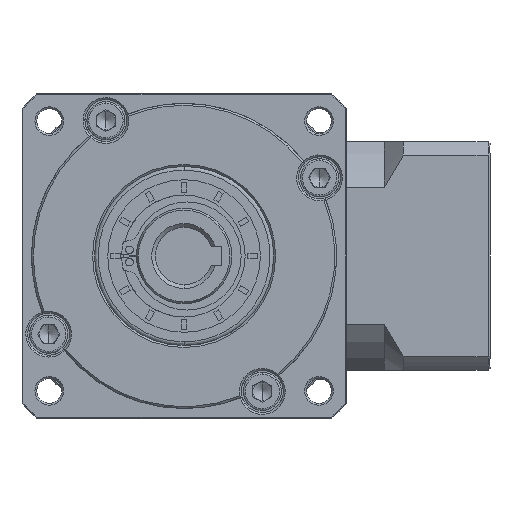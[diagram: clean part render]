
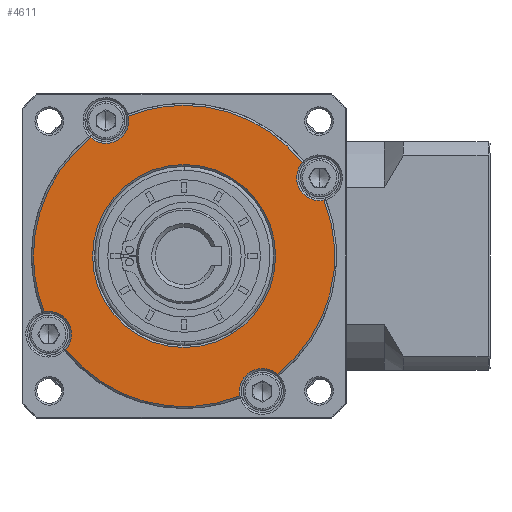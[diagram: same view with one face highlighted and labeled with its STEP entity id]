
A CAD part, left-side view. The second image highlights one B-rep face of the part: STEP entity #4611.
In plain terms, the highlighted planar face has unit normal (-1, 0, 0).
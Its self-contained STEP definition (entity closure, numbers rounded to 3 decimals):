
#3410 = CARTESIAN_POINT ( 'NONE',  ( -85.36, 18.445, -122.89 ) ) ;
#4032 = CIRCLE ( 'NONE', #141488, 6. ) ;
#4082 = EDGE_CURVE ( 'NONE', #55612, #52462, #113578, .T. ) ;
#4611 = ADVANCED_FACE ( 'NONE', ( #22696, #159606 ), #116837, .T. ) ;
#4926 = AXIS2_PLACEMENT_3D ( 'NONE', #40304, #130430, #53282 ) ;
#5009 = ORIENTED_EDGE ( 'NONE', *, *, #14659, .T. ) ;
#5606 = VERTEX_POINT ( 'NONE', #14230 ) ;
#6668 = VERTEX_POINT ( 'NONE', #120352 ) ;
#7017 = CIRCLE ( 'NONE', #127283, 39.5 ) ;
#7355 = AXIS2_PLACEMENT_3D ( 'NONE', #31864, #121969, #44769 ) ;
#8693 = CARTESIAN_POINT ( 'NONE',  ( -85.36, -30.024, -153.897 ) ) ;
#12544 = DIRECTION ( 'NONE',  ( 0., 0., -1. ) ) ;
#14201 = CIRCLE ( 'NONE', #150805, 39.5 ) ;
#14230 = CARTESIAN_POINT ( 'NONE',  ( -85.36, -41.062, -108.39 ) ) ;
#14659 = EDGE_CURVE ( 'NONE', #120411, #98141, #4032, .T. ) ;
#18509 = CARTESIAN_POINT ( 'NONE',  ( -85.36, -5.555, -122.89 ) ) ;
#18525 = DIRECTION ( 'NONE',  ( 1., 0., 0. ) ) ;
#18829 = DIRECTION ( 'NONE',  ( 1., 0., 0. ) ) ;
#19982 = CARTESIAN_POINT ( 'NONE',  ( -85.36, -42.25, -108.271 ) ) ;
#21425 = ORIENTED_EDGE ( 'NONE', *, *, #158992, .F. ) ;
#21868 = DIRECTION ( 'NONE',  ( 1., 0., 0. ) ) ;
#22696 = FACE_OUTER_BOUND ( 'NONE', #114746, .T. ) ;
#23176 = AXIS2_PLACEMENT_3D ( 'NONE', #37169, #127213, #50101 ) ;
#23571 = AXIS2_PLACEMENT_3D ( 'NONE', #98971, #21868, #111903 ) ;
#26302 = CARTESIAN_POINT ( 'NONE',  ( -85.36, -5.555, -83.39 ) ) ;
#26705 = CIRCLE ( 'NONE', #132046, 39.5 ) ;
#28766 = CARTESIAN_POINT ( 'NONE',  ( -85.36, 31.14, -137.508 ) ) ;
#30939 = VERTEX_POINT ( 'NONE', #8693 ) ;
#31472 = DIRECTION ( 'NONE',  ( 0., -1., 0. ) ) ;
#31864 = CARTESIAN_POINT ( 'NONE',  ( -85.36, 14.945, -87.383 ) ) ;
#32401 = AXIS2_PLACEMENT_3D ( 'NONE', #122981, #45808, #135952 ) ;
#32611 = CIRCLE ( 'NONE', #166938, 6. ) ;
#37169 = CARTESIAN_POINT ( 'NONE',  ( -85.36, -5.555, -122.89 ) ) ;
#38296 = ORIENTED_EDGE ( 'NONE', *, *, #96989, .T. ) ;
#40304 = CARTESIAN_POINT ( 'NONE',  ( -85.36, -5.555, -122.89 ) ) ;
#42544 = CARTESIAN_POINT ( 'NONE',  ( -85.36, -41.062, -102.39 ) ) ;
#44769 = DIRECTION ( 'NONE',  ( 0., 0., -1. ) ) ;
#45808 = DIRECTION ( 'NONE',  ( 1., 0., 0. ) ) ;
#46726 = VERTEX_POINT ( 'NONE', #107578 ) ;
#46830 = DIRECTION ( 'NONE',  ( 1., 0., 0. ) ) ;
#47554 = DIRECTION ( 'NONE',  ( 1., 0., 0. ) ) ;
#49727 = ORIENTED_EDGE ( 'NONE', *, *, #157669, .T. ) ;
#50101 = DIRECTION ( 'NONE',  ( 0., 0., 1. ) ) ;
#50716 = CARTESIAN_POINT ( 'NONE',  ( -85.36, -5.555, -122.89 ) ) ;
#51051 = DIRECTION ( 'NONE',  ( 1., 0., 0. ) ) ;
#51872 = EDGE_CURVE ( 'NONE', #120411, #6668, #82478, .T. ) ;
#51918 = ORIENTED_EDGE ( 'NONE', *, *, #4082, .F. ) ;
#52462 = VERTEX_POINT ( 'NONE', #96884 ) ;
#53282 = DIRECTION ( 'NONE',  ( 0., 0., -1. ) ) ;
#53554 = EDGE_LOOP ( 'NONE', ( #132043, #91710 ) ) ;
#54659 = EDGE_CURVE ( 'NONE', #73116, #30939, #70454, .T. ) ;
#55521 = DIRECTION ( 'NONE',  ( 0., 0., -1. ) ) ;
#55612 = VERTEX_POINT ( 'NONE', #26302 ) ;
#60309 = CARTESIAN_POINT ( 'NONE',  ( -85.36, -20.174, -159.585 ) ) ;
#63762 = DIRECTION ( 'NONE',  ( 0., 0., 1. ) ) ;
#64571 = CARTESIAN_POINT ( 'NONE',  ( -85.36, -5.555, -122.89 ) ) ;
#65911 = VERTEX_POINT ( 'NONE', #3410 ) ;
#67164 = CIRCLE ( 'NONE', #109256, 6. ) ;
#67380 = ORIENTED_EDGE ( 'NONE', *, *, #51872, .F. ) ;
#68294 = CIRCLE ( 'NONE', #7355, 6. ) ;
#69687 = EDGE_CURVE ( 'NONE', #73116, #98141, #14201, .T. ) ;
#70454 = CIRCLE ( 'NONE', #156679, 6. ) ;
#71596 = ORIENTED_EDGE ( 'NONE', *, *, #69687, .F. ) ;
#71627 = AXIS2_PLACEMENT_3D ( 'NONE', #166735, #89734, #12544 ) ;
#73116 = VERTEX_POINT ( 'NONE', #60309 ) ;
#77517 = DIRECTION ( 'NONE',  ( 0., 0., 1. ) ) ;
#78662 = ORIENTED_EDGE ( 'NONE', *, *, #137890, .F. ) ;
#79950 = VERTEX_POINT ( 'NONE', #96336 ) ;
#82478 = CIRCLE ( 'NONE', #32401, 39.5 ) ;
#84361 = VERTEX_POINT ( 'NONE', #19982 ) ;
#89734 = DIRECTION ( 'NONE',  ( 1., 0., 0. ) ) ;
#90082 = CIRCLE ( 'NONE', #23571, 39.5 ) ;
#91710 = ORIENTED_EDGE ( 'NONE', *, *, #154194, .T. ) ;
#95039 = ORIENTED_EDGE ( 'NONE', *, *, #123922, .T. ) ;
#95677 = CARTESIAN_POINT ( 'NONE',  ( -85.36, -5.555, -122.89 ) ) ;
#95979 = CARTESIAN_POINT ( 'NONE',  ( -85.36, 29.952, -143.39 ) ) ;
#96336 = CARTESIAN_POINT ( 'NONE',  ( -85.36, -29.555, -122.89 ) ) ;
#96884 = CARTESIAN_POINT ( 'NONE',  ( -85.36, -36.563, -98.42 ) ) ;
#96989 = EDGE_CURVE ( 'NONE', #84361, #5606, #67164, .T. ) ;
#97160 = EDGE_CURVE ( 'NONE', #84361, #30939, #26705, .T. ) ;
#98141 = VERTEX_POINT ( 'NONE', #160302 ) ;
#98971 = CARTESIAN_POINT ( 'NONE',  ( -85.36, -5.555, -122.89 ) ) ;
#99758 = CIRCLE ( 'NONE', #71627, 6. ) ;
#101953 = CARTESIAN_POINT ( 'NONE',  ( -85.36, 14.945, -93.383 ) ) ;
#102488 = EDGE_CURVE ( 'NONE', #79950, #65911, #164002, .T. ) ;
#104213 = ORIENTED_EDGE ( 'NONE', *, *, #54659, .T. ) ;
#107578 = CARTESIAN_POINT ( 'NONE',  ( -85.36, 9.064, -86.194 ) ) ;
#108532 = DIRECTION ( 'NONE',  ( 1., 0., 0. ) ) ;
#108547 = DIRECTION ( 'NONE',  ( 0., -1., 0. ) ) ;
#108848 = DIRECTION ( 'NONE',  ( 0., 0., -1. ) ) ;
#109256 = AXIS2_PLACEMENT_3D ( 'NONE', #42544, #132681, #55521 ) ;
#111903 = DIRECTION ( 'NONE',  ( 0., 1., 0. ) ) ;
#113578 = CIRCLE ( 'NONE', #23176, 39.5 ) ;
#114746 = EDGE_LOOP ( 'NONE', ( #21425, #129379, #95039, #78662, #67380, #5009, #71596, #104213, #122999, #38296, #49727, #51918 ) ) ;
#116837 = PLANE ( 'NONE',  #4926 ) ;
#120352 = CARTESIAN_POINT ( 'NONE',  ( -85.36, 33.945, -122.89 ) ) ;
#120411 = VERTEX_POINT ( 'NONE', #28766 ) ;
#121969 = DIRECTION ( 'NONE',  ( 1., 0., 0. ) ) ;
#122981 = CARTESIAN_POINT ( 'NONE',  ( -85.36, -5.555, -122.89 ) ) ;
#122999 = ORIENTED_EDGE ( 'NONE', *, *, #97160, .F. ) ;
#123922 = EDGE_CURVE ( 'NONE', #136895, #155582, #99758, .T. ) ;
#124025 = CARTESIAN_POINT ( 'NONE',  ( -85.36, -41.062, -102.39 ) ) ;
#124690 = CARTESIAN_POINT ( 'NONE',  ( -85.36, -5.555, -122.89 ) ) ;
#127213 = DIRECTION ( 'NONE',  ( 1., 0., 0. ) ) ;
#127283 = AXIS2_PLACEMENT_3D ( 'NONE', #50716, #140783, #63762 ) ;
#128185 = CARTESIAN_POINT ( 'NONE',  ( -85.36, -26.055, -158.397 ) ) ;
#129379 = ORIENTED_EDGE ( 'NONE', *, *, #130894, .T. ) ;
#130430 = DIRECTION ( 'NONE',  ( -1., 0., 0. ) ) ;
#130894 = EDGE_CURVE ( 'NONE', #46726, #136895, #68294, .T. ) ;
#132043 = ORIENTED_EDGE ( 'NONE', *, *, #102488, .T. ) ;
#132046 = AXIS2_PLACEMENT_3D ( 'NONE', #124690, #47554, #137666 ) ;
#132681 = DIRECTION ( 'NONE',  ( 1., 0., 0. ) ) ;
#135952 = DIRECTION ( 'NONE',  ( 0., 1., 0. ) ) ;
#136895 = VERTEX_POINT ( 'NONE', #101953 ) ;
#136947 = DIRECTION ( 'NONE',  ( 0., 0., -1. ) ) ;
#137666 = DIRECTION ( 'NONE',  ( 0., 0., 1. ) ) ;
#137890 = EDGE_CURVE ( 'NONE', #6668, #155582, #90082, .T. ) ;
#139002 = CIRCLE ( 'NONE', #165190, 24. ) ;
#139347 = CARTESIAN_POINT ( 'NONE',  ( -85.36, 18.915, -91.882 ) ) ;
#140783 = DIRECTION ( 'NONE',  ( 1., 0., 0. ) ) ;
#141117 = DIRECTION ( 'NONE',  ( 0., 0., -1. ) ) ;
#141488 = AXIS2_PLACEMENT_3D ( 'NONE', #95979, #18829, #108848 ) ;
#141588 = AXIS2_PLACEMENT_3D ( 'NONE', #95677, #18525, #108547 ) ;
#150805 = AXIS2_PLACEMENT_3D ( 'NONE', #64571, #154491, #77517 ) ;
#154194 = EDGE_CURVE ( 'NONE', #65911, #79950, #139002, .T. ) ;
#154491 = DIRECTION ( 'NONE',  ( 1., 0., 0. ) ) ;
#155582 = VERTEX_POINT ( 'NONE', #139347 ) ;
#156679 = AXIS2_PLACEMENT_3D ( 'NONE', #128185, #51051, #141117 ) ;
#157669 = EDGE_CURVE ( 'NONE', #5606, #52462, #32611, .T. ) ;
#158992 = EDGE_CURVE ( 'NONE', #46726, #55612, #7017, .T. ) ;
#159606 = FACE_BOUND ( 'NONE', #53554, .T. ) ;
#160302 = CARTESIAN_POINT ( 'NONE',  ( -85.36, 25.453, -147.359 ) ) ;
#164002 = CIRCLE ( 'NONE', #141588, 24. ) ;
#165190 = AXIS2_PLACEMENT_3D ( 'NONE', #18509, #108532, #31472 ) ;
#166735 = CARTESIAN_POINT ( 'NONE',  ( -85.36, 14.945, -87.383 ) ) ;
#166938 = AXIS2_PLACEMENT_3D ( 'NONE', #124025, #46830, #136947 ) ;
